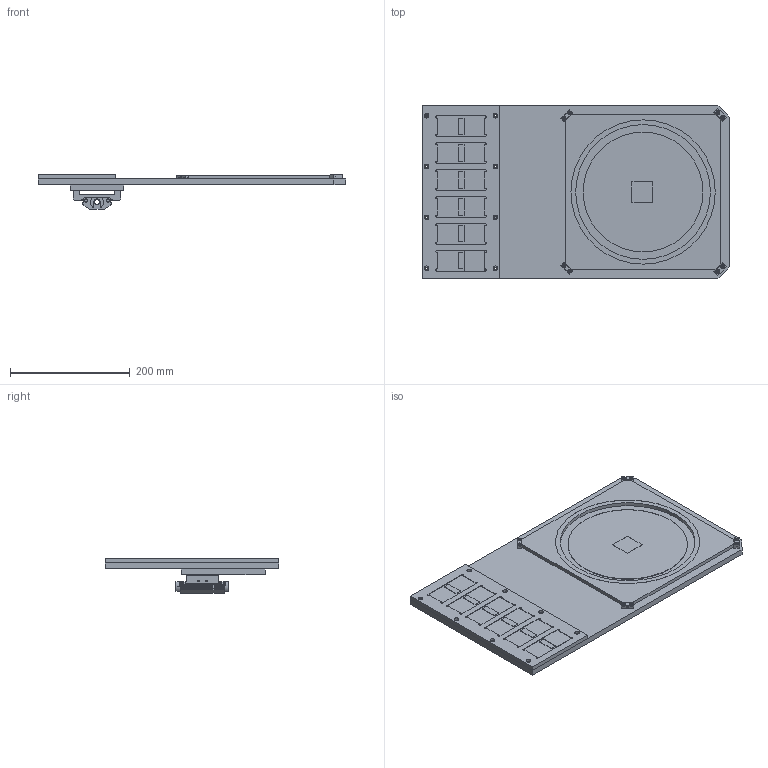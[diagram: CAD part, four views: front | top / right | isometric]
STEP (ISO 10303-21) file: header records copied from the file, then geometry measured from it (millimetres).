
FILE_DESCRIPTION (( 'STEP AP214' ), '1' );
FILE_NAME ('13_X-Y_chip_transfer_mechanism_Y.STEP', '2021-02-16T02:49:43', ( '' ), ( '' ), 'SwSTEP 2.0', 'SolidWorks 2017', '' );
FILE_SCHEMA (( 'AUTOMOTIVE_DESIGN' ));
Length unit declared in the file: millimetre
Products named in the file (25): _0792_Assy; 0792_202_Plate; 0792_302_SCB3-8; 0792_008_WGHMC-20-7-10; _0792_SA03; 0792_Z_LXM3010C-T2B-D2-3-3-R-400_8; 0792_Work-A; _0792_SA02; 0792_304_SCB4-10; 0792_Work-B; 0792_009_BPK3; 0792_307_SCB5-14; 0792_006_TSBE3-3; 0792_211_Tape; 0792_Z_BPK3_2; 0792_002_LXM3010C-T2B-D2-3-3-R-400; 0792_209_Ring; 0792_305_SCB4-14; 0792_Z_BPK3_1; 0792_204_Plate; new_792_y; 0792_201_Plate; 0792_207_Tray; 0792_004_MSYC4-805; 13_X-Y_chip_transfer_mechanism_Y
Assembly tree (30 placements, depth 6):
  13_X-Y_chip_transfer_mechanism_Y
    new_792_y
      _0792_Assy
        _0792_SA02
          0792_002_LXM3010C-T2B-D2-3-3-R-400
            0792_Z_LXM3010C-T2B-D2-3-3-R-400_8
        _0792_SA03
          0792_004_MSYC4-805  x2
          0792_006_TSBE3-3  x2
          0792_008_WGHMC-20-7-10  x2
          0792_009_BPK3  x2
            0792_Z_BPK3_1
            0792_Z_BPK3_2
          0792_201_Plate
          0792_202_Plate
          0792_204_Plate
          0792_207_Tray
          0792_209_Ring
          0792_211_Tape
          0792_302_SCB3-8  x2
          0792_304_SCB4-10
          0792_305_SCB4-14
          0792_307_SCB5-14
        0792_Work-A  x2
        0792_Work-B
Bounding box: 514 x 290 x 57.45 mm (x, y, z)
Volume: 1671146.9 mm3; surface area: 612631.1 mm2
Topology: 25 solids, 25 shells, 744 faces, 1845 edges, 1186 vertices
Faces by surface type: plane 335, cylinder 292, cone 111, sphere 4, bspline 2
Entity records: 27511 total; most frequent: DIRECTION 3606, CARTESIAN_POINT 3353, ORIENTED_EDGE 3166, EDGE_CURVE 1583, AXIS2_PLACEMENT_3D 1346, VERTEX_POINT 1041, LINE 914, VECTOR 914
